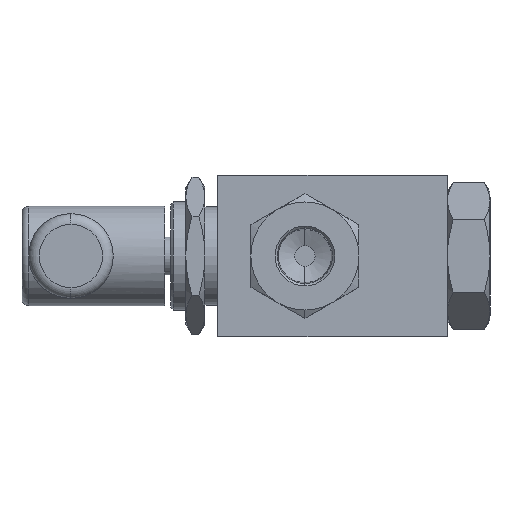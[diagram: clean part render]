
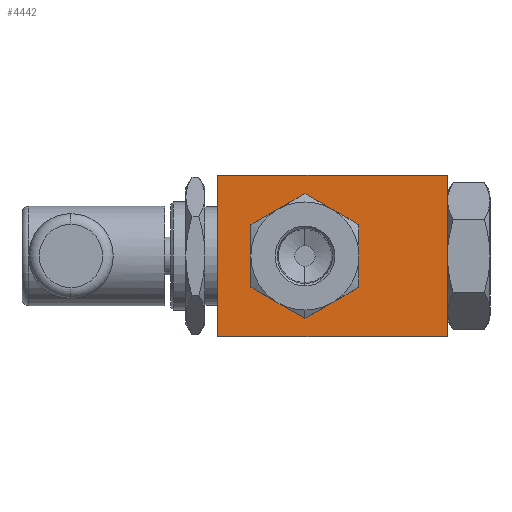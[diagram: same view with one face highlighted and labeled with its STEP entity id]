
A CAD part, left-side view. The second image highlights one B-rep face of the part: STEP entity #4442.
In plain terms, the highlighted planar face has unit normal (-1, 0, 0).
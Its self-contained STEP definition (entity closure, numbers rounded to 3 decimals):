
#8 = VECTOR ( 'NONE', #92, 1000. ) ;
#92 = DIRECTION ( 'NONE',  ( 0., 0., -1. ) ) ;
#100 = CARTESIAN_POINT ( 'NONE',  ( -33.25, 17.5, 0. ) ) ;
#145 = LINE ( 'NONE', #620, #3888 ) ;
#152 = DIRECTION ( 'NONE',  ( 0., 0., -1. ) ) ;
#219 = CARTESIAN_POINT ( 'NONE',  ( -33.25, -27., 19. ) ) ;
#367 = EDGE_CURVE ( 'NONE', #2746, #6159, #1597, .T. ) ;
#396 = CIRCLE ( 'NONE', #1195, 11. ) ;
#430 = DIRECTION ( 'NONE',  ( 1., 0., 0. ) ) ;
#435 = DIRECTION ( 'NONE',  ( 1., 0., 0. ) ) ;
#490 = CIRCLE ( 'NONE', #5580, 11. ) ;
#535 = EDGE_CURVE ( 'NONE', #4027, #6159, #145, .T. ) ;
#560 = EDGE_CURVE ( 'NONE', #626, #3037, #701, .T. ) ;
#579 = CARTESIAN_POINT ( 'NONE',  ( -33.25, -27., 19. ) ) ;
#620 = CARTESIAN_POINT ( 'NONE',  ( -33.25, -27., -19. ) ) ;
#626 = VERTEX_POINT ( 'NONE', #100 ) ;
#674 = PLANE ( 'NONE',  #2458 ) ;
#701 = CIRCLE ( 'NONE', #4190, 11. ) ;
#772 = LINE ( 'NONE', #4106, #4633 ) ;
#782 = VERTEX_POINT ( 'NONE', #1669 ) ;
#928 = DIRECTION ( 'NONE',  ( 0., 0., -1. ) ) ;
#1063 = EDGE_LOOP ( 'NONE', ( #4814, #4143, #2608, #2005, #4269, #4741, #4354 ) ) ;
#1084 = DIRECTION ( 'NONE',  ( 0., 0., -1. ) ) ;
#1174 = CARTESIAN_POINT ( 'NONE',  ( -33.25, 6.5, 11. ) ) ;
#1181 = EDGE_CURVE ( 'NONE', #5916, #626, #5091, .T. ) ;
#1195 = AXIS2_PLACEMENT_3D ( 'NONE', #2097, #4030, #1084 ) ;
#1416 = CIRCLE ( 'NONE', #5295, 11. ) ;
#1517 = CARTESIAN_POINT ( 'NONE',  ( -33.25, 12., 9.526 ) ) ;
#1523 = CARTESIAN_POINT ( 'NONE',  ( -33.25, -27., 19. ) ) ;
#1531 = DIRECTION ( 'NONE',  ( 1., 0., 0. ) ) ;
#1547 = EDGE_CURVE ( 'NONE', #4519, #2746, #1964, .T. ) ;
#1579 = ORIENTED_EDGE ( 'NONE', *, *, #367, .F. ) ;
#1597 = LINE ( 'NONE', #2007, #8 ) ;
#1669 = CARTESIAN_POINT ( 'NONE',  ( -33.25, 1., -9.526 ) ) ;
#1747 = EDGE_CURVE ( 'NONE', #5788, #782, #1416, .T. ) ;
#1928 = CARTESIAN_POINT ( 'NONE',  ( -33.25, 6.5, 0. ) ) ;
#1964 = LINE ( 'NONE', #1523, #2820 ) ;
#2005 = ORIENTED_EDGE ( 'NONE', *, *, #2704, .T. ) ;
#2007 = CARTESIAN_POINT ( 'NONE',  ( -33.25, -27., 19. ) ) ;
#2011 = DIRECTION ( 'NONE',  ( 0., 0., -1. ) ) ;
#2032 = CARTESIAN_POINT ( 'NONE',  ( -33.25, 6.5, 0. ) ) ;
#2058 = VERTEX_POINT ( 'NONE', #5154 ) ;
#2097 = CARTESIAN_POINT ( 'NONE',  ( -33.25, 6.5, 0. ) ) ;
#2120 = CARTESIAN_POINT ( 'NONE',  ( -33.25, 12., -9.526 ) ) ;
#2303 = AXIS2_PLACEMENT_3D ( 'NONE', #2032, #5912, #152 ) ;
#2435 = DIRECTION ( 'NONE',  ( 0., 0., -1. ) ) ;
#2452 = AXIS2_PLACEMENT_3D ( 'NONE', #1928, #2899, #2435 ) ;
#2458 = AXIS2_PLACEMENT_3D ( 'NONE', #579, #5859, #2460 ) ;
#2460 = DIRECTION ( 'NONE',  ( 0., 0., -1. ) ) ;
#2530 = DIRECTION ( 'NONE',  ( 0., -1., 0. ) ) ;
#2602 = DIRECTION ( 'NONE',  ( 0., 0., -1. ) ) ;
#2608 = ORIENTED_EDGE ( 'NONE', *, *, #560, .T. ) ;
#2674 = EDGE_CURVE ( 'NONE', #782, #5916, #4971, .T. ) ;
#2704 = EDGE_CURVE ( 'NONE', #3037, #3198, #396, .T. ) ;
#2746 = VERTEX_POINT ( 'NONE', #219 ) ;
#2820 = VECTOR ( 'NONE', #5363, 1000. ) ;
#2824 = EDGE_CURVE ( 'NONE', #2058, #5788, #490, .T. ) ;
#2870 = ORIENTED_EDGE ( 'NONE', *, *, #535, .T. ) ;
#2899 = DIRECTION ( 'NONE',  ( 1., 0., 0. ) ) ;
#2950 = FACE_BOUND ( 'NONE', #1063, .T. ) ;
#2951 = EDGE_LOOP ( 'NONE', ( #2870, #1579, #5669, #2959 ) ) ;
#2959 = ORIENTED_EDGE ( 'NONE', *, *, #4255, .T. ) ;
#3037 = VERTEX_POINT ( 'NONE', #1517 ) ;
#3198 = VERTEX_POINT ( 'NONE', #1174 ) ;
#3214 = CARTESIAN_POINT ( 'NONE',  ( -33.25, 6.5, 0. ) ) ;
#3303 = DIRECTION ( 'NONE',  ( 0., 0., -1. ) ) ;
#3393 = CARTESIAN_POINT ( 'NONE',  ( -33.25, 27., 19. ) ) ;
#3560 = CARTESIAN_POINT ( 'NONE',  ( -33.25, 6.5, 0. ) ) ;
#3798 = CARTESIAN_POINT ( 'NONE',  ( -33.25, -27., -19. ) ) ;
#3826 = FACE_OUTER_BOUND ( 'NONE', #2951, .T. ) ;
#3888 = VECTOR ( 'NONE', #2530, 1000. ) ;
#3911 = CARTESIAN_POINT ( 'NONE',  ( -33.25, 6.5, 0. ) ) ;
#4027 = VERTEX_POINT ( 'NONE', #4760 ) ;
#4030 = DIRECTION ( 'NONE',  ( 1., 0., 0. ) ) ;
#4040 = EDGE_CURVE ( 'NONE', #3198, #2058, #5439, .T. ) ;
#4106 = CARTESIAN_POINT ( 'NONE',  ( -33.25, 27., 19. ) ) ;
#4143 = ORIENTED_EDGE ( 'NONE', *, *, #1181, .T. ) ;
#4190 = AXIS2_PLACEMENT_3D ( 'NONE', #6149, #430, #928 ) ;
#4255 = EDGE_CURVE ( 'NONE', #4519, #4027, #772, .T. ) ;
#4269 = ORIENTED_EDGE ( 'NONE', *, *, #4040, .T. ) ;
#4292 = CARTESIAN_POINT ( 'NONE',  ( -33.25, -4.5, 0. ) ) ;
#4354 = ORIENTED_EDGE ( 'NONE', *, *, #1747, .T. ) ;
#4442 = ADVANCED_FACE ( 'NONE', ( #3826, #2950 ), #674, .F. ) ;
#4519 = VERTEX_POINT ( 'NONE', #3393 ) ;
#4633 = VECTOR ( 'NONE', #6087, 1000. ) ;
#4741 = ORIENTED_EDGE ( 'NONE', *, *, #2824, .T. ) ;
#4760 = CARTESIAN_POINT ( 'NONE',  ( -33.25, 27., -19. ) ) ;
#4814 = ORIENTED_EDGE ( 'NONE', *, *, #2674, .T. ) ;
#4971 = CIRCLE ( 'NONE', #2303, 11. ) ;
#5091 = CIRCLE ( 'NONE', #5510, 11. ) ;
#5154 = CARTESIAN_POINT ( 'NONE',  ( -33.25, 1., 9.526 ) ) ;
#5295 = AXIS2_PLACEMENT_3D ( 'NONE', #3560, #435, #2011 ) ;
#5363 = DIRECTION ( 'NONE',  ( 0., -1., 0. ) ) ;
#5439 = CIRCLE ( 'NONE', #2452, 11. ) ;
#5499 = DIRECTION ( 'NONE',  ( 1., 0., 0. ) ) ;
#5510 = AXIS2_PLACEMENT_3D ( 'NONE', #3911, #1531, #2602 ) ;
#5580 = AXIS2_PLACEMENT_3D ( 'NONE', #3214, #5499, #3303 ) ;
#5669 = ORIENTED_EDGE ( 'NONE', *, *, #1547, .F. ) ;
#5788 = VERTEX_POINT ( 'NONE', #4292 ) ;
#5859 = DIRECTION ( 'NONE',  ( 1., 0., 0. ) ) ;
#5912 = DIRECTION ( 'NONE',  ( 1., 0., 0. ) ) ;
#5916 = VERTEX_POINT ( 'NONE', #2120 ) ;
#6087 = DIRECTION ( 'NONE',  ( 0., 0., -1. ) ) ;
#6149 = CARTESIAN_POINT ( 'NONE',  ( -33.25, 6.5, 0. ) ) ;
#6159 = VERTEX_POINT ( 'NONE', #3798 ) ;
